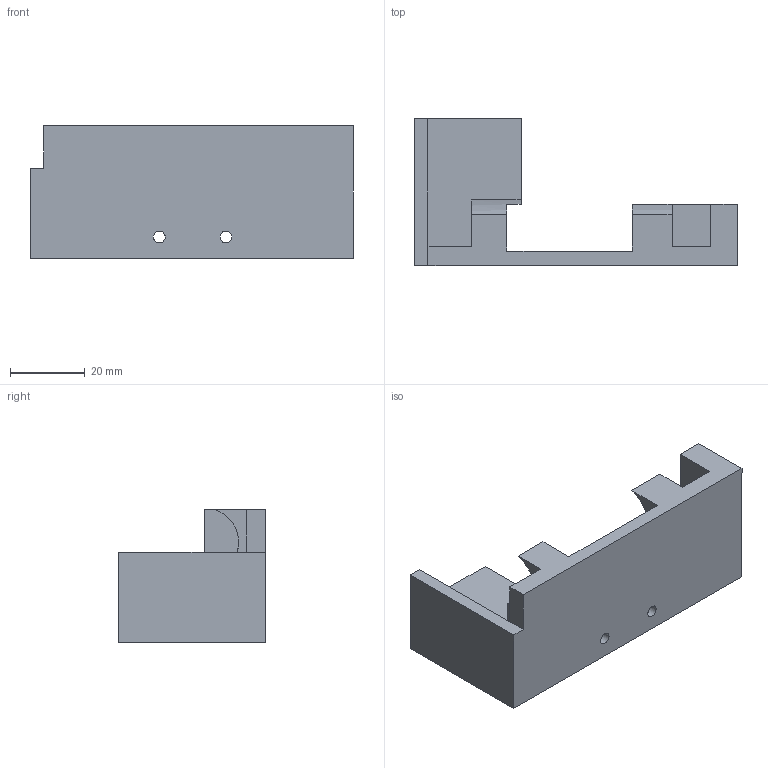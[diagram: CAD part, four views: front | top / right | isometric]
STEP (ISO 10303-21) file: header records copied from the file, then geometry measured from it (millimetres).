
FILE_DESCRIPTION(/* description */ (''),/* implementation_level */ '2;1');
FILE_NAME(/* name */ 'batteryholder2_bottom.step',/* time_stamp */ '2026-06-10T02:32:25-04:00',/* author */ (''),/* organization */ (''),/* preprocessor_version */ 'ST-DEVELOPER v20.1',/* originating_system */ 'Autodesk Translation Framework v15.8.0.0',/* authorisation */ '');
FILE_SCHEMA (('AUTOMOTIVE_DESIGN { 1 0 10303 214 3 1 1 }'));
Length unit declared in the file: inch
Products named in the file (1): 2026-06-10-02-32-25-664
Bounding box: 86.35 x 39.33 x 35.56 mm (x, y, z)
Volume: 35145.3 mm3; surface area: 13190.3 mm2
Topology: 1 solids, 1 shells, 41 faces, 113 edges, 75 vertices
Faces by surface type: plane 30, cylinder 8, cone 3
Full cylindrical faces by diameter (mm): 3.175 x2
Entity records: 1344 total; most frequent: CARTESIAN_POINT 242, ORIENTED_EDGE 226, DIRECTION 212, EDGE_CURVE 113, LINE 86, VECTOR 86, VERTEX_POINT 75, AXIS2_PLACEMENT_3D 63
